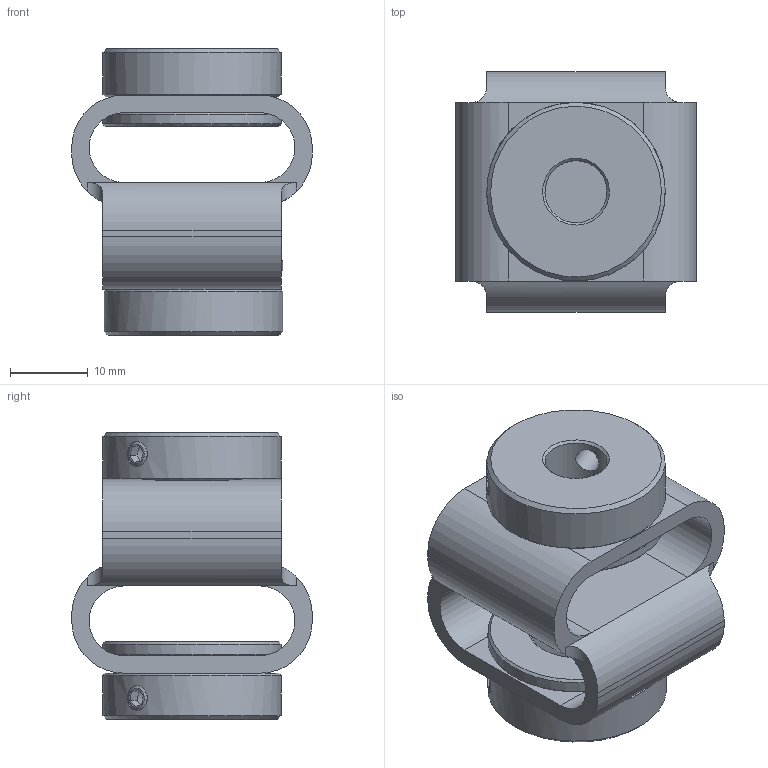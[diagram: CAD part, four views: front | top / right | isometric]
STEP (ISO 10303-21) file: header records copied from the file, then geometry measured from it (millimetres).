
FILE_DESCRIPTION(/* description */ (''),/* implementation_level */ '2;1');
FILE_NAME(/* name */ 'E:\ABP_bauteile\Doppelschlaufenkupplung\DKPS_3835\Doppelschlaufenkupplung_DKPS_3835_08_12.stp',/* time_stamp */ '2015-03-09T15:02:18+01:00',/* author */ ('Rob'),/* organization */ (''),/* preprocessor_version */ 'ST-DEVELOPER v15.6',/* originating_system */ 'Autodesk Inventor 2015',/* authorisation */ '');
FILE_SCHEMA (('CONFIG_CONTROL_DESIGN'));
Length unit declared in the file: millimetre
Products named in the file (1): Bauteil50
Bounding box: 31 x 31 x 36.95 mm (x, y, z)
Volume: 11165.1 mm3; surface area: 7972.8 mm2
Topology: 1 solids, 3 shells, 149 faces, 366 edges, 223 vertices
Faces by surface type: plane 84, cylinder 35, cone 30
Full cylindrical faces by diameter (mm): 3.242 x8, 8 x1, 12 x1, 14 x2, 15 x2, 23 x4
Entity records: 4237 total; most frequent: CARTESIAN_POINT 1081, DIRECTION 663, ORIENTED_EDGE 580, EDGE_CURVE 290, AXIS2_PLACEMENT_3D 260, EDGE_LOOP 205, VERTEX_POINT 191, FACE_OUTER_BOUND 149
